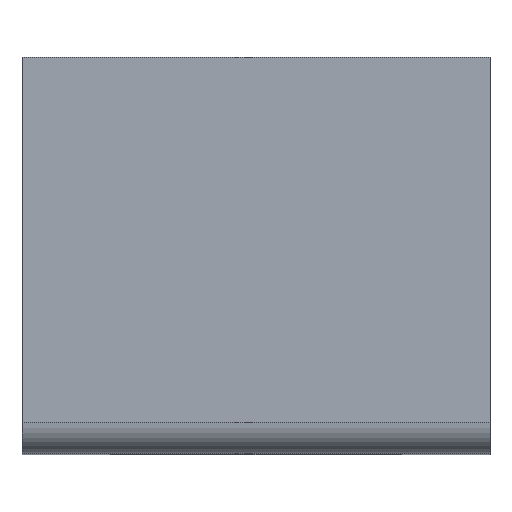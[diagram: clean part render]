
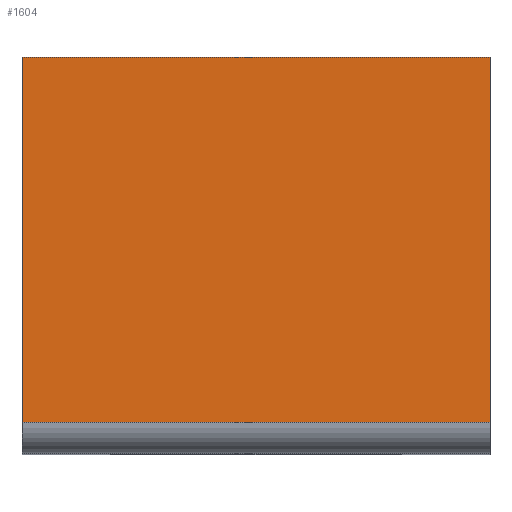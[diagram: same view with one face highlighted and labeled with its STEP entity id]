
A CAD part, top view. The second image highlights one B-rep face of the part: STEP entity #1604.
In plain terms, the highlighted planar face has unit normal (0, 0, 1).
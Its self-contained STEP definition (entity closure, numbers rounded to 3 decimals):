
#72 = PLANE('',#73);
#73 = AXIS2_PLACEMENT_3D('',#74,#75,#76);
#74 = CARTESIAN_POINT('',(300.,46.896,309.873));
#75 = DIRECTION('',(-1.,-0.,-0.));
#76 = DIRECTION('',(0.,0.,-1.));
#100 = CYLINDRICAL_SURFACE('',#101,20.);
#101 = AXIS2_PLACEMENT_3D('',#102,#103,#104);
#102 = CARTESIAN_POINT('',(0.,20.,440.));
#103 = DIRECTION('',(-1.,0.,0.));
#104 = DIRECTION('',(0.,-1.,0.));
#126 = PLANE('',#127);
#127 = AXIS2_PLACEMENT_3D('',#128,#129,#130);
#128 = CARTESIAN_POINT('',(0.,46.896,309.873));
#129 = DIRECTION('',(-1.,-0.,-0.));
#130 = DIRECTION('',(0.,0.,-1.));
#593 = VERTEX_POINT('',#594);
#594 = CARTESIAN_POINT('',(0.,20.,460.));
#616 = EDGE_CURVE('',#593,#617,#619,.T.);
#617 = VERTEX_POINT('',#618);
#618 = CARTESIAN_POINT('',(0.,254.,460.));
#619 = SURFACE_CURVE('',#620,(#624,#631),.PCURVE_S1.);
#620 = LINE('',#621,#622);
#621 = CARTESIAN_POINT('',(0.,20.,460.));
#622 = VECTOR('',#623,1.);
#623 = DIRECTION('',(0.,1.,0.));
#624 = PCURVE('',#126,#625);
#625 = DEFINITIONAL_REPRESENTATION('',(#626),#630);
#626 = LINE('',#627,#628);
#627 = CARTESIAN_POINT('',(-150.127,26.896));
#628 = VECTOR('',#629,1.);
#629 = DIRECTION('',(0.,-1.));
#630 = ( GEOMETRIC_REPRESENTATION_CONTEXT(2) 
PARAMETRIC_REPRESENTATION_CONTEXT() REPRESENTATION_CONTEXT('2D SPACE',''
  ) );
#631 = PCURVE('',#632,#637);
#632 = PLANE('',#633);
#633 = AXIS2_PLACEMENT_3D('',#634,#635,#636);
#634 = CARTESIAN_POINT('',(0.,20.,460.));
#635 = DIRECTION('',(0.,0.,1.));
#636 = DIRECTION('',(0.,1.,0.));
#637 = DEFINITIONAL_REPRESENTATION('',(#638),#642);
#638 = LINE('',#639,#640);
#639 = CARTESIAN_POINT('',(0.,0.));
#640 = VECTOR('',#641,1.);
#641 = DIRECTION('',(1.,0.));
#642 = ( GEOMETRIC_REPRESENTATION_CONTEXT(2) 
PARAMETRIC_REPRESENTATION_CONTEXT() REPRESENTATION_CONTEXT('2D SPACE',''
  ) );
#660 = PLANE('',#661);
#661 = AXIS2_PLACEMENT_3D('',#662,#663,#664);
#662 = CARTESIAN_POINT('',(0.,254.,460.));
#663 = DIRECTION('',(-0.,1.,0.));
#664 = DIRECTION('',(0.,0.,-1.));
#760 = VERTEX_POINT('',#761);
#761 = CARTESIAN_POINT('',(300.,20.,460.));
#783 = EDGE_CURVE('',#760,#784,#786,.T.);
#784 = VERTEX_POINT('',#785);
#785 = CARTESIAN_POINT('',(300.,254.,460.));
#786 = SURFACE_CURVE('',#787,(#791,#798),.PCURVE_S1.);
#787 = LINE('',#788,#789);
#788 = CARTESIAN_POINT('',(300.,20.,460.));
#789 = VECTOR('',#790,1.);
#790 = DIRECTION('',(0.,1.,0.));
#791 = PCURVE('',#72,#792);
#792 = DEFINITIONAL_REPRESENTATION('',(#793),#797);
#793 = LINE('',#794,#795);
#794 = CARTESIAN_POINT('',(-150.127,26.896));
#795 = VECTOR('',#796,1.);
#796 = DIRECTION('',(0.,-1.));
#797 = ( GEOMETRIC_REPRESENTATION_CONTEXT(2) 
PARAMETRIC_REPRESENTATION_CONTEXT() REPRESENTATION_CONTEXT('2D SPACE',''
  ) );
#798 = PCURVE('',#632,#799);
#799 = DEFINITIONAL_REPRESENTATION('',(#800),#804);
#800 = LINE('',#801,#802);
#801 = CARTESIAN_POINT('',(0.,-300.));
#802 = VECTOR('',#803,1.);
#803 = DIRECTION('',(1.,0.));
#804 = ( GEOMETRIC_REPRESENTATION_CONTEXT(2) 
PARAMETRIC_REPRESENTATION_CONTEXT() REPRESENTATION_CONTEXT('2D SPACE',''
  ) );
#907 = EDGE_CURVE('',#593,#760,#908,.T.);
#908 = SURFACE_CURVE('',#909,(#913,#920),.PCURVE_S1.);
#909 = LINE('',#910,#911);
#910 = CARTESIAN_POINT('',(0.,20.,460.));
#911 = VECTOR('',#912,1.);
#912 = DIRECTION('',(1.,0.,0.));
#913 = PCURVE('',#100,#914);
#914 = DEFINITIONAL_REPRESENTATION('',(#915),#919);
#915 = LINE('',#916,#917);
#916 = CARTESIAN_POINT('',(1.571,0.));
#917 = VECTOR('',#918,1.);
#918 = DIRECTION('',(0.,-1.));
#919 = ( GEOMETRIC_REPRESENTATION_CONTEXT(2) 
PARAMETRIC_REPRESENTATION_CONTEXT() REPRESENTATION_CONTEXT('2D SPACE',''
  ) );
#920 = PCURVE('',#632,#921);
#921 = DEFINITIONAL_REPRESENTATION('',(#922),#926);
#922 = LINE('',#923,#924);
#923 = CARTESIAN_POINT('',(0.,0.));
#924 = VECTOR('',#925,1.);
#925 = DIRECTION('',(0.,-1.));
#926 = ( GEOMETRIC_REPRESENTATION_CONTEXT(2) 
PARAMETRIC_REPRESENTATION_CONTEXT() REPRESENTATION_CONTEXT('2D SPACE',''
  ) );
#1604 = ADVANCED_FACE('',(#1605),#632,.T.);
#1605 = FACE_BOUND('',#1606,.T.);
#1606 = EDGE_LOOP('',(#1607,#1608,#1609,#1630));
#1607 = ORIENTED_EDGE('',*,*,#907,.T.);
#1608 = ORIENTED_EDGE('',*,*,#783,.T.);
#1609 = ORIENTED_EDGE('',*,*,#1610,.F.);
#1610 = EDGE_CURVE('',#617,#784,#1611,.T.);
#1611 = SURFACE_CURVE('',#1612,(#1616,#1623),.PCURVE_S1.);
#1612 = LINE('',#1613,#1614);
#1613 = CARTESIAN_POINT('',(0.,254.,460.));
#1614 = VECTOR('',#1615,1.);
#1615 = DIRECTION('',(1.,0.,0.));
#1616 = PCURVE('',#632,#1617);
#1617 = DEFINITIONAL_REPRESENTATION('',(#1618),#1622);
#1618 = LINE('',#1619,#1620);
#1619 = CARTESIAN_POINT('',(234.,0.));
#1620 = VECTOR('',#1621,1.);
#1621 = DIRECTION('',(0.,-1.));
#1622 = ( GEOMETRIC_REPRESENTATION_CONTEXT(2) 
PARAMETRIC_REPRESENTATION_CONTEXT() REPRESENTATION_CONTEXT('2D SPACE',''
  ) );
#1623 = PCURVE('',#660,#1624);
#1624 = DEFINITIONAL_REPRESENTATION('',(#1625),#1629);
#1625 = LINE('',#1626,#1627);
#1626 = CARTESIAN_POINT('',(0.,0.));
#1627 = VECTOR('',#1628,1.);
#1628 = DIRECTION('',(0.,-1.));
#1629 = ( GEOMETRIC_REPRESENTATION_CONTEXT(2) 
PARAMETRIC_REPRESENTATION_CONTEXT() REPRESENTATION_CONTEXT('2D SPACE',''
  ) );
#1630 = ORIENTED_EDGE('',*,*,#616,.F.);
